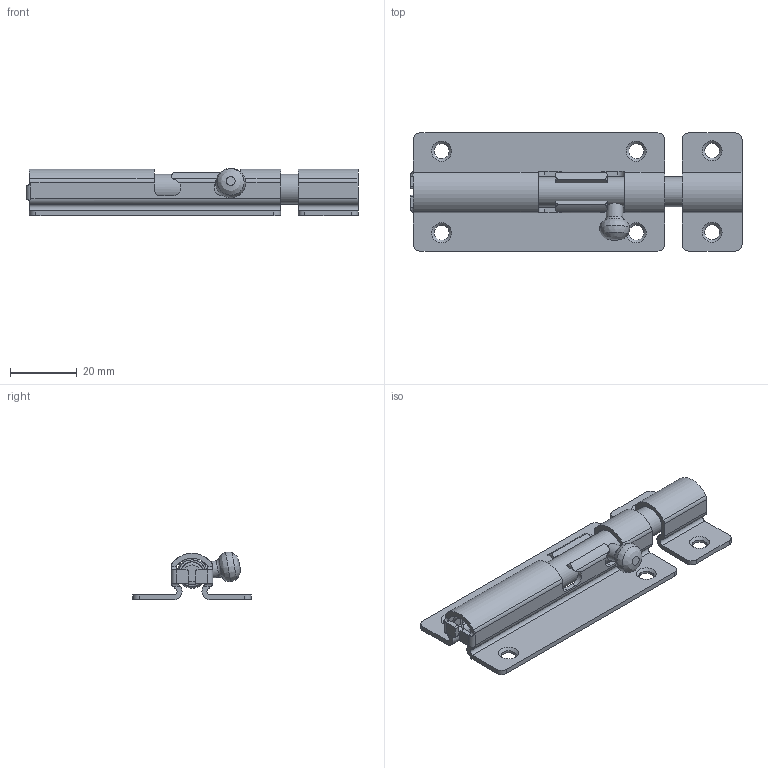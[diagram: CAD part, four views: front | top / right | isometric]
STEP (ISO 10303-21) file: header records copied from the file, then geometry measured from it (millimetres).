
FILE_DESCRIPTION(/* description */ (''),/* implementation_level */ '2;1');
FILE_NAME(/* name */ '\\NAS\db20\ODS1-4S\DR_ODS1-4S.stp',/* time_stamp */ '2019-05-07T18:31:42+09:00',/* author */ ('user'),/* organization */ (''),/* preprocessor_version */ 'ST-DEVELOPER v15.6',/* originating_system */ 'Autodesk Inventor 2015',/* authorisation */ '');
FILE_SCHEMA (('AUTOMOTIVE_DESIGN { 1 0 10303 214 3 1 1 }'));
Length unit declared in the file: millimetre
Products named in the file (5): DR_ODS1-4S; DR_ODS1-4S-BR; DR_ODS1-4S-S; DR_ODS1-4S-SPRING
Bounding box: 99.77 x 35.5 x 14.34 mm (x, y, z)
Volume: 11921.6 mm3; surface area: 13670.1 mm2
Topology: 4 solids, 4 shells, 146 faces, 418 edges, 278 vertices
Faces by surface type: cylinder 80, plane 53, cone 6, bspline 4, torus 3
Full cylindrical faces by diameter (mm): 4.5 x6, 5 x1, 9 x1
Entity records: 6374 total; most frequent: CARTESIAN_POINT 2481, DIRECTION 802, ORIENTED_EDGE 784, EDGE_CURVE 392, AXIS2_PLACEMENT_3D 306, VERTEX_POINT 270, LINE 190, VECTOR 190
